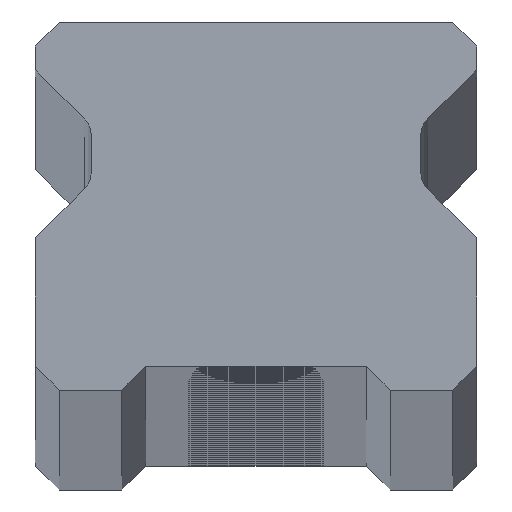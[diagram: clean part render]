
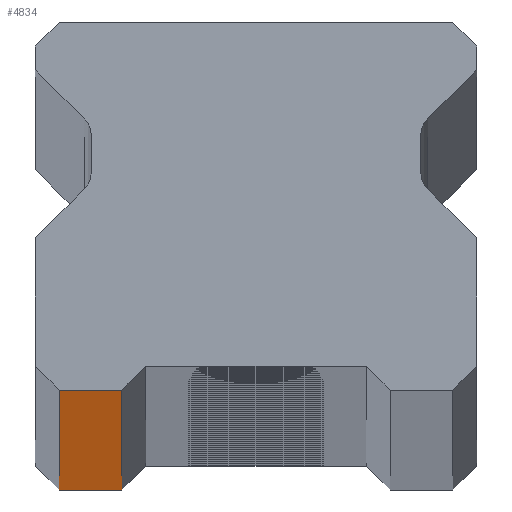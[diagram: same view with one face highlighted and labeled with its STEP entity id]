
A CAD part, top view. The second image highlights one B-rep face of the part: STEP entity #4834.
In plain terms, the highlighted planar face has unit normal (0, -1, 0).
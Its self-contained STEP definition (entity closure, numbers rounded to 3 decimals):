
#405 = EDGE_CURVE ( 'NONE', #3877, #8288, #1253, .T. ) ;
#537 = PLANE ( 'NONE',  #3818 ) ;
#808 = VECTOR ( 'NONE', #4187, 1000. ) ;
#867 = EDGE_CURVE ( 'NONE', #8288, #2833, #7160, .T. ) ;
#1253 = LINE ( 'NONE', #4548, #3749 ) ;
#1290 = FACE_OUTER_BOUND ( 'NONE', #4914, .T. ) ;
#1646 = LINE ( 'NONE', #7480, #808 ) ;
#2204 = DIRECTION ( 'NONE',  ( 0., 0., 1. ) ) ;
#2236 = CARTESIAN_POINT ( 'NONE',  ( -7., 0., -1490. ) ) ;
#2412 = CARTESIAN_POINT ( 'NONE',  ( -10.25, 0., 1490. ) ) ;
#2833 = VERTEX_POINT ( 'NONE', #3466 ) ;
#3017 = LINE ( 'NONE', #2412, #8056 ) ;
#3466 = CARTESIAN_POINT ( 'NONE',  ( -7., 0., 1490. ) ) ;
#3749 = VECTOR ( 'NONE', #5182, 1000. ) ;
#3793 = DIRECTION ( 'NONE',  ( -1., 0., 0. ) ) ;
#3818 = AXIS2_PLACEMENT_3D ( 'NONE', #7085, #7059, #3793 ) ;
#3877 = VERTEX_POINT ( 'NONE', #4381 ) ;
#4187 = DIRECTION ( 'NONE',  ( 1., 0., 0. ) ) ;
#4381 = CARTESIAN_POINT ( 'NONE',  ( -10.25, 0., -1490. ) ) ;
#4548 = CARTESIAN_POINT ( 'NONE',  ( 11.5, 0., -1490. ) ) ;
#4730 = ORIENTED_EDGE ( 'NONE', *, *, #405, .T. ) ;
#4834 = ADVANCED_FACE ( 'NONE', ( #1290 ), #537, .F. ) ;
#4914 = EDGE_LOOP ( 'NONE', ( #4730, #6990, #6893, #6887 ) ) ;
#4938 = DIRECTION ( 'NONE',  ( 0., 0., -1. ) ) ;
#5074 = CARTESIAN_POINT ( 'NONE',  ( -10.25, 0., 1490. ) ) ;
#5182 = DIRECTION ( 'NONE',  ( 1., 0., 0. ) ) ;
#5883 = CARTESIAN_POINT ( 'NONE',  ( -7., 0., -1490. ) ) ;
#6887 = ORIENTED_EDGE ( 'NONE', *, *, #7839, .T. ) ;
#6893 = ORIENTED_EDGE ( 'NONE', *, *, #7284, .F. ) ;
#6990 = ORIENTED_EDGE ( 'NONE', *, *, #867, .T. ) ;
#7059 = DIRECTION ( 'NONE',  ( 0., 1., 0. ) ) ;
#7085 = CARTESIAN_POINT ( 'NONE',  ( 11.5, 0., 1490. ) ) ;
#7160 = LINE ( 'NONE', #2236, #8189 ) ;
#7284 = EDGE_CURVE ( 'NONE', #7415, #2833, #1646, .T. ) ;
#7415 = VERTEX_POINT ( 'NONE', #5074 ) ;
#7480 = CARTESIAN_POINT ( 'NONE',  ( 11.5, 0., 1490. ) ) ;
#7839 = EDGE_CURVE ( 'NONE', #7415, #3877, #3017, .T. ) ;
#8056 = VECTOR ( 'NONE', #4938, 1000. ) ;
#8189 = VECTOR ( 'NONE', #2204, 1000. ) ;
#8288 = VERTEX_POINT ( 'NONE', #5883 ) ;
